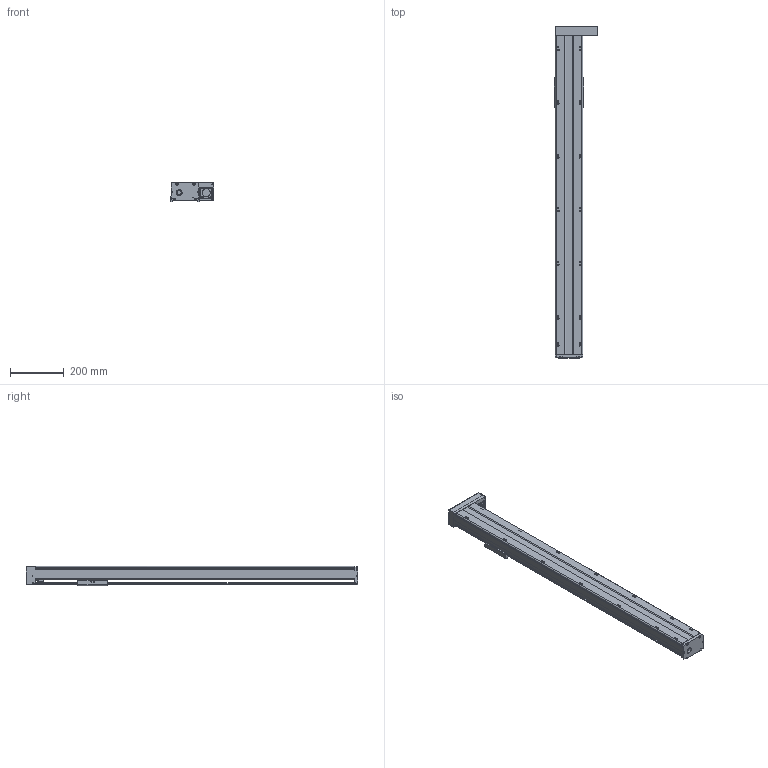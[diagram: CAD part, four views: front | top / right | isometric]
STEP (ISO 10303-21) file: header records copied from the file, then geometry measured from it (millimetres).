
FILE_DESCRIPTION(/* description */ (''),/* implementation_level */ '2;1');
FILE_NAME(/* name */ 'TKA100-FR-1000_asm1.stp',/* time_stamp */ '2016-05-17T15:50:55+08:00',/* author */ (''),/* organization */ (''),/* preprocessor_version */ 'ST-DEVELOPER v15',/* originating_system */ 'SIEMENS PLM Software NX 8.5',/* authorisation */ '');
FILE_SCHEMA (('AUTOMOTIVE_DESIGN { 1 0 10303 214 3 1 1 1 }'));
Length unit declared in the file: millimetre
Products named in the file (3): 200-2; 200-1; TKA100-FR-1000_asm1
Assembly tree (2 placements, depth 2):
  TKA100-FR-1000_asm1
    200-1
    200-2
Bounding box: 162 x 1236 x 71 mm (x, y, z)
Volume: 2531640.7 mm3; surface area: 862438.7 mm2
Topology: 2 solids, 16 shells, 818 faces, 2136 edges, 1395 vertices
Faces by surface type: plane 326, cylinder 313, cone 125, torus 28, bspline 26
Full cylindrical faces by diameter (mm): 2.5 x6, 2.6 x8, 3.3 x11, 3.4 x4, 3.8 x8, 4.2 x23, 4.3 x4, 4.5 x6, 5 x2, 5.5 x22, 6.6 x4, 8 x4, 9 x6, 10 x15, 11 x4, 12 x6, 15.3 x1, 16 x1, 22 x1, 24 x1, 28 x2, 30 x1, 33 x1
Entity records: 29638 total; most frequent: CARTESIAN_POINT 10738, DIRECTION 3879, ORIENTED_EDGE 3648, EDGE_CURVE 1824, AXIS2_PLACEMENT_3D 1539, VERTEX_POINT 1302, EDGE_LOOP 1141, ADVANCED_FACE 818
